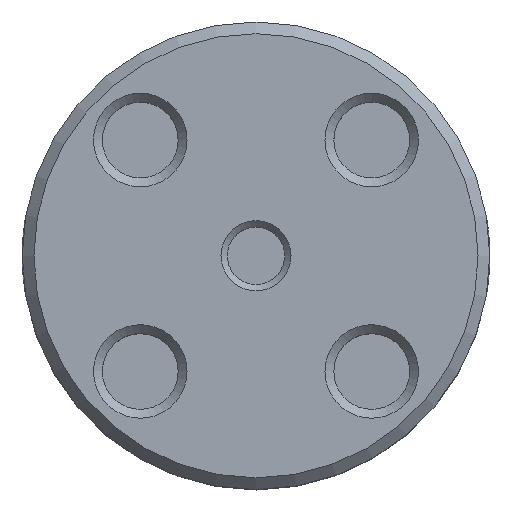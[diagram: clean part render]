
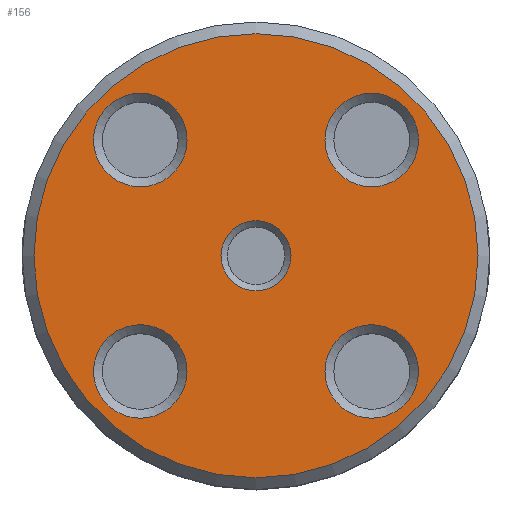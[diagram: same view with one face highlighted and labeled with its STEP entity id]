
A CAD part, top view. The second image highlights one B-rep face of the part: STEP entity #156.
In plain terms, the highlighted planar face has unit normal (0, 0, 1).
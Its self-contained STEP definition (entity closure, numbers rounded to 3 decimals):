
#156 = ADVANCED_FACE( '', ( #332, #333, #334, #335, #336, #337 ), #338, .F. );
#332 = FACE_OUTER_BOUND( '', #525, .T. );
#333 = FACE_BOUND( '', #526, .T. );
#334 = FACE_BOUND( '', #527, .T. );
#335 = FACE_BOUND( '', #528, .T. );
#336 = FACE_BOUND( '', #529, .T. );
#337 = FACE_BOUND( '', #530, .T. );
#338 = PLANE( '', #531 );
#525 = EDGE_LOOP( '', ( #865 ) );
#526 = EDGE_LOOP( '', ( #866 ) );
#527 = EDGE_LOOP( '', ( #867 ) );
#528 = EDGE_LOOP( '', ( #868 ) );
#529 = EDGE_LOOP( '', ( #869 ) );
#530 = EDGE_LOOP( '', ( #870 ) );
#531 = AXIS2_PLACEMENT_3D( '', #871, #872, #873 );
#865 = ORIENTED_EDGE( '', *, *, #1083, .F. );
#866 = ORIENTED_EDGE( '', *, *, #1030, .F. );
#867 = ORIENTED_EDGE( '', *, *, #1087, .F. );
#868 = ORIENTED_EDGE( '', *, *, #1001, .F. );
#869 = ORIENTED_EDGE( '', *, *, #982, .F. );
#870 = ORIENTED_EDGE( '', *, *, #1021, .T. );
#871 = CARTESIAN_POINT( '', ( 0., 0., 0. ) );
#872 = DIRECTION( '', ( 0., 0., -1. ) );
#873 = DIRECTION( '', ( -1., 0., 0. ) );
#982 = EDGE_CURVE( '', #1140, #1140, #1141, .T. );
#1001 = EDGE_CURVE( '', #1169, #1169, #1170, .T. );
#1021 = EDGE_CURVE( '', #1202, #1202, #1203, .T. );
#1030 = EDGE_CURVE( '', #1216, #1216, #1217, .T. );
#1083 = EDGE_CURVE( '', #1288, #1288, #1289, .T. );
#1087 = EDGE_CURVE( '', #1294, #1294, #1295, .T. );
#1140 = VERTEX_POINT( '', #1404 );
#1141 = CIRCLE( '', #1405, 2. );
#1169 = VERTEX_POINT( '', #1449 );
#1170 = CIRCLE( '', #1450, 2. );
#1202 = VERTEX_POINT( '', #1490 );
#1203 = CIRCLE( '', #1491, 1.5 );
#1216 = VERTEX_POINT( '', #1509 );
#1217 = CIRCLE( '', #1510, 2. );
#1288 = VERTEX_POINT( '', #1710 );
#1289 = CIRCLE( '', #1711, 9.5 );
#1294 = VERTEX_POINT( '', #1716 );
#1295 = CIRCLE( '', #1717, 2. );
#1404 = CARTESIAN_POINT( '', ( -2.95, 4.95, 0. ) );
#1405 = AXIS2_PLACEMENT_3D( '', #1750, #1751, #1752 );
#1449 = CARTESIAN_POINT( '', ( -2.95, -4.95, 0. ) );
#1450 = AXIS2_PLACEMENT_3D( '', #1771, #1772, #1773 );
#1490 = CARTESIAN_POINT( '', ( -1.5, 0., 0. ) );
#1491 = AXIS2_PLACEMENT_3D( '', #1803, #1804, #1805 );
#1509 = CARTESIAN_POINT( '', ( 6.95, 4.95, 0. ) );
#1510 = AXIS2_PLACEMENT_3D( '', #1815, #1816, #1817 );
#1710 = CARTESIAN_POINT( '', ( -9.5, 0., 0. ) );
#1711 = AXIS2_PLACEMENT_3D( '', #1855, #1856, #1857 );
#1716 = CARTESIAN_POINT( '', ( 6.95, -4.95, 0. ) );
#1717 = AXIS2_PLACEMENT_3D( '', #1861, #1862, #1863 );
#1750 = CARTESIAN_POINT( '', ( -4.95, 4.95, 0. ) );
#1751 = DIRECTION( '', ( 0., 0., 1. ) );
#1752 = DIRECTION( '', ( 1., 0., 0. ) );
#1771 = CARTESIAN_POINT( '', ( -4.95, -4.95, 0. ) );
#1772 = DIRECTION( '', ( 0., 0., 1. ) );
#1773 = DIRECTION( '', ( 1., 0., 0. ) );
#1803 = CARTESIAN_POINT( '', ( 0., 0., 0. ) );
#1804 = DIRECTION( '', ( 0., 0., -1. ) );
#1805 = DIRECTION( '', ( -1., 0., 0. ) );
#1815 = CARTESIAN_POINT( '', ( 4.95, 4.95, 0. ) );
#1816 = DIRECTION( '', ( 0., 0., 1. ) );
#1817 = DIRECTION( '', ( 1., 0., 0. ) );
#1855 = CARTESIAN_POINT( '', ( 0., 0., 0. ) );
#1856 = DIRECTION( '', ( 0., 0., -1. ) );
#1857 = DIRECTION( '', ( -1., 0., 0. ) );
#1861 = CARTESIAN_POINT( '', ( 4.95, -4.95, 0. ) );
#1862 = DIRECTION( '', ( 0., 0., 1. ) );
#1863 = DIRECTION( '', ( 1., 0., 0. ) );
